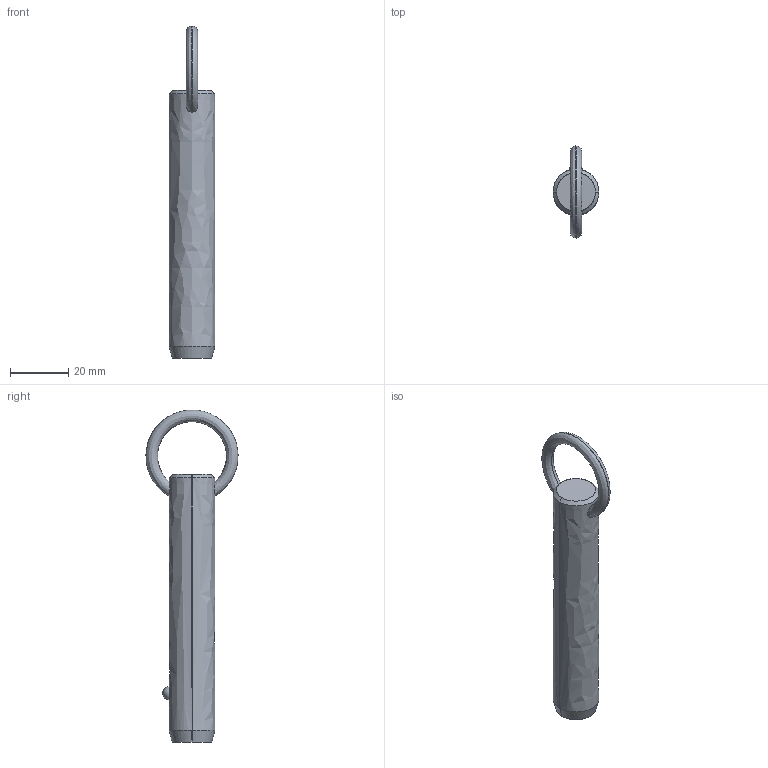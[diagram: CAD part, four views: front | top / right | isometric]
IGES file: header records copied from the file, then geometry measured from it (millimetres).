
Start section: SolidWorks IGES file using analytic representation for surfaces
Global section: file name: C:\Users\liam_\OneDrive\Documents\WORK\Work for WixRoyd\Job Files\J-00019 - Matt Davis CAD Checking\04. CAD Drawings\automotion20190605\P1250.2_v2\P1250.2_v2_20190729_IGES\P1250.062-250.igs; native system: SolidWorks 2017; preprocessor: SolidWorks 2017; author: liam_; date: 190729.233315; units: millimetre
Bounding box: 15.8 x 31.68 x 114.19 mm (x, y, z)
Surface area: 5740.5 mm2 (no closed solid volume)
Topology: 0 solids, 0 shells, 12 faces, 292 edges, 290 vertices
Faces by surface type: revolution 8, bspline 4
